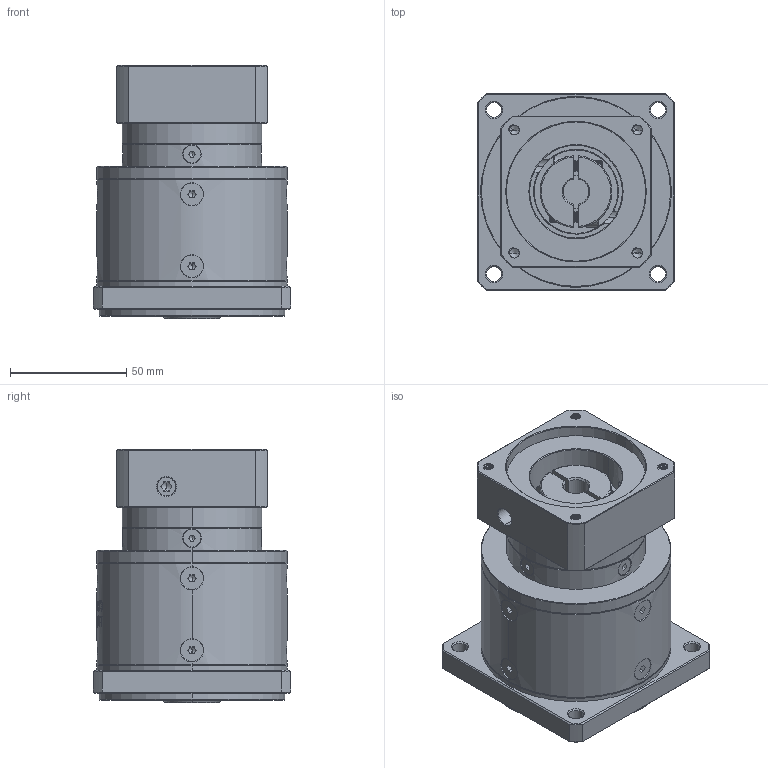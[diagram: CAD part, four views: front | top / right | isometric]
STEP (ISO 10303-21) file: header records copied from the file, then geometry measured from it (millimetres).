
FILE_DESCRIPTION (( 'STEP AP214' ), '1' );
FILE_NAME ('ZF080-K15-L2-P2-11-60-75-M5.step', '2023-08-19T06:58:44', ( '' ), ( '' ), 'SwSTEP 2.0', 'SolidWorks 2016', '' );
FILE_SCHEMA (( 'AUTOMOTIVE_DESIGN' ));
Length unit declared in the file: millimetre
Products named in the file (1): ZF080-K15-L2-P2-11-60-75-M5
Bounding box: 85 x 85 x 109 mm (x, y, z)
Volume: 465083.8 mm3; surface area: 69263.3 mm2
Topology: 18 solids, 18 shells, 2275 faces, 6005 edges, 3831 vertices
Faces by surface type: plane 1123, cylinder 401, bspline 390, cone 321, torus 40
Entity records: 120345 total; most frequent: CARTESIAN_POINT 43928, ORIENTED_EDGE 11938, DIRECTION 8961, EDGE_CURVE 5969, VERTEX_POINT 3831, LINE 3181, VECTOR 3181, AXIS2_PLACEMENT_3D 2890
